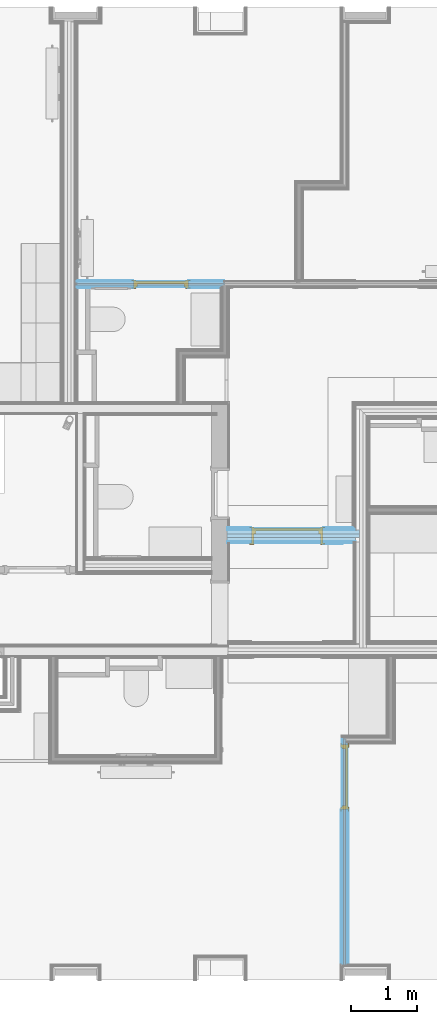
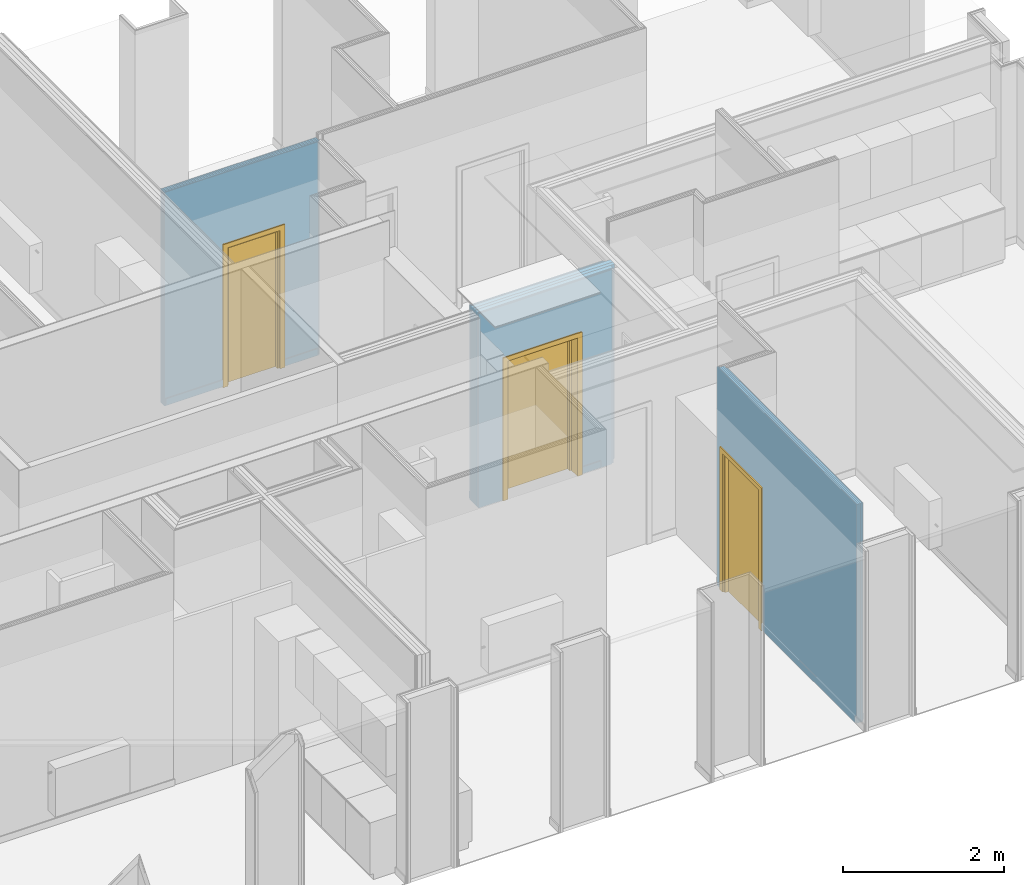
# One storey, part 53 of 65: 3 doors, 4 openings, 3 elements without a shape of their own, plus 23 elements that do not belong to this part.
"""IFC2X3 building model written with IfcOpenShell, lengths in metres."""

from ifc_helpers import new_model, entity, si_unit, converted_unit, derived_unit, money_unit, direction, frame, frame_2d, origin_with_axes, place, context, subcontext, project, spatial, polyline, rectangle, outline, extrude, faceted_brep, material, type_object, element, fill, aggregate, save


model = new_model("IFC2X3")

# Units and contexts
model_context = context("Model", 3, precision=1e-05, world=origin_with_axes(), true_north=direction((0.0, 1.0)))
body_context = subcontext(model_context, "Body", "Model", "MODEL_VIEW", scale=1.0)
ifc_project = project(units=[si_unit("LENGTHUNIT", "METRE"), si_unit("AREAUNIT", "SQUARE_METRE"), si_unit("VOLUMEUNIT", "CUBIC_METRE"), si_unit("ABSORBEDDOSEUNIT", "GRAY"), si_unit("AMOUNTOFSUBSTANCEUNIT", "MOLE"), si_unit("DOSEEQUIVALENTUNIT", "SIEVERT"), si_unit("ELECTRICCAPACITANCEUNIT", "FARAD"), si_unit("ELECTRICCHARGEUNIT", "COULOMB"), si_unit("ELECTRICCONDUCTANCEUNIT", "SIEMENS"), si_unit("ELECTRICCURRENTUNIT", "AMPERE"), si_unit("ELECTRICRESISTANCEUNIT", "OHM"), si_unit("ELECTRICVOLTAGEUNIT", "VOLT"), si_unit("ENERGYUNIT", "JOULE"), si_unit("FORCEUNIT", "NEWTON"), si_unit("FREQUENCYUNIT", "HERTZ"), si_unit("ILLUMINANCEUNIT", "LUX"), si_unit("INDUCTANCEUNIT", "HENRY"), si_unit("LUMINOUSFLUXUNIT", "LUMEN"), si_unit("LUMINOUSINTENSITYUNIT", "CANDELA"), si_unit("MAGNETICFLUXDENSITYUNIT", "TESLA"), si_unit("MAGNETICFLUXUNIT", "WEBER"), si_unit("MASSUNIT", "GRAM"), converted_unit("PLANEANGLEUNIT", "degree", entity("IfcReal", 0.0174532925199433), si_unit("PLANEANGLEUNIT", "RADIAN"), dimensions=[0, 0, 0, 0, 0, 0, 0]), si_unit("POWERUNIT", "WATT"), si_unit("PRESSUREUNIT", "PASCAL"), si_unit("RADIOACTIVITYUNIT", "BECQUEREL"), si_unit("SOLIDANGLEUNIT", "STERADIAN"), si_unit("THERMODYNAMICTEMPERATUREUNIT", "KELVIN"), si_unit("TIMEUNIT", "SECOND"), derived_unit("ACCELERATIONUNIT", [(si_unit("LENGTHUNIT", "METRE"), 1), (si_unit("TIMEUNIT", "SECOND"), -2)]), derived_unit("ANGULARVELOCITYUNIT", [(converted_unit("PLANEANGLEUNIT", "degree", entity("IfcReal", 0.0174532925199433), si_unit("PLANEANGLEUNIT", "RADIAN"), dimensions=[0, 0, 0, 0, 0, 0, 0]), 1), (si_unit("TIMEUNIT", "SECOND"), -1)]), derived_unit("CURVATUREUNIT", [(converted_unit("PLANEANGLEUNIT", "degree", entity("IfcReal", 0.0174532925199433), si_unit("PLANEANGLEUNIT", "RADIAN"), dimensions=[0, 0, 0, 0, 0, 0, 0]), 1), (si_unit("LENGTHUNIT", "METRE"), -1)]), derived_unit("DYNAMICVISCOSITYUNIT", [(si_unit("PRESSUREUNIT", "PASCAL"), 1), (si_unit("TIMEUNIT", "SECOND"), 1)]), derived_unit("HEATFLUXDENSITYUNIT", [(si_unit("POWERUNIT", "WATT"), 1), (si_unit("LENGTHUNIT", "METRE"), -2)]), derived_unit("HEATINGVALUEUNIT", [(si_unit("ENERGYUNIT", "JOULE"), 1), (si_unit("MASSUNIT", "GRAM"), -1)]), derived_unit("INTEGERCOUNTRATEUNIT", [(si_unit("TIMEUNIT", "SECOND"), -1)]), derived_unit("IONCONCENTRATIONUNIT", [(si_unit("MASSUNIT", "GRAM"), 1), (si_unit("VOLUMEUNIT", "CUBIC_METRE"), -1)]), derived_unit("ISOTHERMALMOISTURECAPACITYUNIT", [(si_unit("VOLUMEUNIT", "CUBIC_METRE"), 1), (si_unit("MASSUNIT", "GRAM"), -1)]), derived_unit("KINEMATICVISCOSITYUNIT", [(si_unit("AREAUNIT", "SQUARE_METRE"), 1), (si_unit("TIMEUNIT", "SECOND"), -1)]), derived_unit("LINEARFORCEUNIT", [(si_unit("FORCEUNIT", "NEWTON"), 1), (si_unit("LENGTHUNIT", "METRE"), -1)]), derived_unit("LINEARMOMENTUNIT", [(si_unit("FORCEUNIT", "NEWTON"), 1), (si_unit("LENGTHUNIT", "METRE"), -1)]), derived_unit("LINEARSTIFFNESSUNIT", [(si_unit("FORCEUNIT", "NEWTON"), 1), (si_unit("LENGTHUNIT", "METRE"), -1)]), derived_unit("LINEARVELOCITYUNIT", [(si_unit("LENGTHUNIT", "METRE"), 1), (si_unit("TIMEUNIT", "SECOND"), -1)]), derived_unit("LUMINOUSINTENSITYDISTRIBUTIONUNIT", [(si_unit("LUMINOUSINTENSITYUNIT", "CANDELA"), 1), (si_unit("LUMINOUSFLUXUNIT", "LUMEN"), -1)]), derived_unit("MASSDENSITYUNIT", [(si_unit("MASSUNIT", "GRAM"), 1), (si_unit("VOLUMEUNIT", "CUBIC_METRE"), -1)]), derived_unit("MASSFLOWRATEUNIT", [(si_unit("MASSUNIT", "GRAM"), 1), (si_unit("TIMEUNIT", "SECOND"), -1)]), derived_unit("MASSPERLENGTHUNIT", [(si_unit("MASSUNIT", "GRAM"), 1), (si_unit("LENGTHUNIT", "METRE"), -1)]), derived_unit("MODULUSOFELASTICITYUNIT", [(si_unit("FORCEUNIT", "NEWTON"), 1), (si_unit("AREAUNIT", "SQUARE_METRE"), -1)]), derived_unit("MODULUSOFLINEARSUBGRADEREACTIONUNIT", [(si_unit("FORCEUNIT", "NEWTON"), 1), (si_unit("LENGTHUNIT", "METRE"), -2)]), derived_unit("MODULUSOFROTATIONALSUBGRADEREACTIONUNIT", [(si_unit("FORCEUNIT", "NEWTON"), 1), (si_unit("LENGTHUNIT", "METRE"), 1)]), derived_unit("MODULUSOFSUBGRADEREACTIONUNIT", [(si_unit("FORCEUNIT", "NEWTON"), 1), (si_unit("VOLUMEUNIT", "CUBIC_METRE"), -1)]), derived_unit("MOISTUREDIFFUSIVITYUNIT", [(si_unit("VOLUMEUNIT", "CUBIC_METRE"), 1), (si_unit("TIMEUNIT", "SECOND"), -1)]), derived_unit("MOLECULARWEIGHTUNIT", [(si_unit("MASSUNIT", "GRAM"), 1), (si_unit("AMOUNTOFSUBSTANCEUNIT", "MOLE"), -1)]), derived_unit("PLANARFORCEUNIT", [(si_unit("FORCEUNIT", "NEWTON"), 1), (si_unit("LENGTHUNIT", "METRE"), -2)]), derived_unit("ROTATIONALFREQUENCYUNIT", [(si_unit("TIMEUNIT", "SECOND"), -1)]), derived_unit("ROTATIONALMASSUNIT", [(si_unit("MASSUNIT", "GRAM"), 1), (si_unit("LENGTHUNIT", "METRE"), 2)]), derived_unit("ROTATIONALSTIFFNESSUNIT", [(si_unit("FORCEUNIT", "NEWTON"), 1), (si_unit("LENGTHUNIT", "METRE"), 1), (converted_unit("PLANEANGLEUNIT", "degree", entity("IfcReal", 0.0174532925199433), si_unit("PLANEANGLEUNIT", "RADIAN"), dimensions=[0, 0, 0, 0, 0, 0, 0]), -1)]), derived_unit("SECTIONAREAINTEGRALUNIT", [(si_unit("LENGTHUNIT", "METRE"), 5)]), derived_unit("SECTIONMODULUSUNIT", [(si_unit("LENGTHUNIT", "METRE"), 3)]), derived_unit("SHEARMODULUSUNIT", [(si_unit("FORCEUNIT", "NEWTON"), 1), (si_unit("AREAUNIT", "SQUARE_METRE"), -1)]), derived_unit("SOUNDPOWERUNIT", [(si_unit("ENERGYUNIT", "JOULE"), 1), (si_unit("TIMEUNIT", "SECOND"), -1)]), derived_unit("SPECIFICHEATCAPACITYUNIT", [(si_unit("FORCEUNIT", "NEWTON"), 1), (si_unit("MASSUNIT", "GRAM"), -1), (si_unit("THERMODYNAMICTEMPERATUREUNIT", "KELVIN"), -1)]), derived_unit("TEMPERATUREGRADIENTUNIT", [(si_unit("THERMODYNAMICTEMPERATUREUNIT", "KELVIN"), 1), (si_unit("LENGTHUNIT", "METRE"), -1)]), derived_unit("THERMALADMITTANCEUNIT", [(si_unit("POWERUNIT", "WATT"), 1), (si_unit("AREAUNIT", "SQUARE_METRE"), -1), (si_unit("THERMODYNAMICTEMPERATUREUNIT", "KELVIN"), -1)]), derived_unit("THERMALCONDUCTANCEUNIT", [(si_unit("POWERUNIT", "WATT"), 1), (si_unit("LENGTHUNIT", "METRE"), -1), (si_unit("THERMODYNAMICTEMPERATUREUNIT", "KELVIN"), -1)]), derived_unit("THERMALEXPANSIONCOEFFICIENTUNIT", [(si_unit("THERMODYNAMICTEMPERATUREUNIT", "KELVIN"), -1)]), derived_unit("THERMALRESISTANCEUNIT", [(si_unit("AREAUNIT", "SQUARE_METRE"), 1), (si_unit("POWERUNIT", "WATT"), -1)]), derived_unit("THERMALTRANSMITTANCEUNIT", [(si_unit("POWERUNIT", "WATT"), 1), (si_unit("AREAUNIT", "SQUARE_METRE"), -1), (si_unit("THERMODYNAMICTEMPERATUREUNIT", "KELVIN"), -1)]), derived_unit("TORQUEUNIT", [(si_unit("FORCEUNIT", "NEWTON"), 1), (si_unit("LENGTHUNIT", "METRE"), 1)]), derived_unit("VAPORPERMEABILITYUNIT", [(si_unit("MASSUNIT", "GRAM"), 1), (si_unit("TIMEUNIT", "SECOND"), -1)]), derived_unit("VOLUMETRICFLOWRATEUNIT", [(si_unit("VOLUMEUNIT", "CUBIC_METRE"), 1), (si_unit("TIMEUNIT", "SECOND"), -1)]), derived_unit("WARPINGCONSTANTUNIT", [(si_unit("LENGTHUNIT", "METRE"), 6)]), derived_unit("WARPINGMOMENTUNIT", [(si_unit("FORCEUNIT", "NEWTON"), 1), (si_unit("LENGTHUNIT", "METRE"), 2)]), money_unit("GBP")], contexts=[model_context])

# Site, building, storey, space
site_placement = place(None, origin_with_axes())
site = spatial("IfcSite", under=ifc_project, at=site_placement, Name="Site", CompositionType="ELEMENT")
building_placement = place(site_placement, origin_with_axes())
building = spatial("IfcBuilding", under=site, at=building_placement, Name="Building01", CompositionType="ELEMENT")
storey_placement = place(building_placement, frame((0.0, 0.0, 8.64), z_axis=(0.0, 0.0, 1.0), x_axis=(1.0, 0.0, 0.0)))
storey = spatial("IfcBuildingStorey", under=building, at=storey_placement, Name="2F", CompositionType="ELEMENT", Elevation=8.64)
space_1_placement = place(storey_placement, frame((15.83, 8.82, 0.017975), z_axis=(0.0, 0.0, 1.0), x_axis=(0.0, -1.0, 0.0)))
space_1 = spatial("IfcSpace", under=storey, at=space_1_placement, Name="09", CompositionType="ELEMENT", InteriorOrExteriorSpace="NOTDEFINED")

# Door
ifc_material_1 = material(Name="A_BSUK_Doors")
door_style_1 = type_object("IfcDoorStyle", Name="A-Doors-SingleFlush", ConstructionType="USERDEFINED", OperationType="SINGLE_SWING_RIGHT", ParameterTakesPrecedence=False, Sizeable=False)
wall_3_placement = place(storey_placement, frame((17.985, 6.793, 0.0), z_axis=(0.0, 0.0, 1.0), x_axis=(1.0, 0.0, 0.0)))
opening_4_placement = place(wall_3_placement, frame((0.368, -0.103, -0.03), z_axis=(0.0, 0.0, 1.0), x_axis=(1.0, 0.0, 0.0)))
door_1_placement = place(opening_4_placement, frame((0.039, 0.24, 0.03), z_axis=(0.0, 0.0, 1.0), x_axis=(1.0, 0.0, 0.0)))
door_1 = element("IfcDoor", 1, at=door_1_placement, inside=space_1, type_object=door_style_1, material=ifc_material_1, Name="2.09", ObjectType="A-Doors-SingleFlush", OverallHeight=2.172, OverallWidth=1.08700000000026, context=body_context, shape_type="Brep", body=[
    faceted_brep([(1.0, -0.244, 0.0), (1.069, -0.244, 0.0), (1.069, -0.244, 2.169), (-0.069, -0.244, 2.169), (-0.069, -0.244, 0.0), (0.0, -0.244, 0.0), (0.0, -0.244, 2.1), (1.0, -0.244, 2.1), (-0.069, -0.225, 0.0), (-0.069, -0.225, 2.169), (1.069, -0.225, 2.169), (1.069, -0.225, 0.0), (1.0, 0.019, 0.0), (1.069, 0.019, 0.0), (1.069, 0.0, 0.0), (1.042, 0.0, 0.0), (1.042, -0.225, 0.0), (1.0, 0.019, 2.1), (0.0, 0.019, 2.1), (0.0, 0.019, 0.0), (-0.069, 0.019, 0.0), (-0.069, 0.019, 2.169), (1.069, 0.019, 2.169), (1.069, 0.0, 2.169), (1.042, -0.225, 2.142), (1.042, 0.0, 2.142), (-0.042, -0.225, 2.142), (-0.042, 0.0, 2.142), (-0.042, -0.225, 0.0), (-0.042, 0.0, 0.0), (-0.069, 0.0, 2.169), (-0.069, 0.0, 0.0)], [[[0, 1, 2, 3, 4, 5, 6, 7]], [[8, 4, 3, 9]], [[10, 2, 1, 11]], [[9, 3, 2, 10]], [[12, 13, 14, 15, 16, 11, 1, 0]], [[7, 17, 12, 0]], [[6, 18, 17, 7]], [[18, 19, 20, 21, 22, 13, 12, 17]], [[5, 19, 18, 6]], [[13, 22, 23, 14]], [[24, 16, 15, 25]], [[26, 24, 25, 27]], [[11, 16, 24, 26, 28, 8, 9, 10]], [[27, 29, 28, 26]], [[25, 15, 14, 23, 30, 31, 29, 27]], [[5, 4, 8, 28, 29, 31, 20, 19]], [[30, 21, 20, 31]], [[23, 22, 21, 30]]]),
    faceted_brep([(0.0, -0.09, 2.1), (0.0, -0.04, 2.1), (0.0, -0.04, 0.0), (0.0, -0.09, 0.0), (0.975, -0.09, 0.0), (1.0, -0.09, 0.0), (1.0, -0.09, 2.1), (0.025, -0.09, 0.0), (0.025, -0.09, 2.075), (0.975, -0.09, 2.075), (0.975, -0.04, 0.0), (1.0, -0.04, 0.0), (1.0, -0.04, 2.1), (0.025, -0.04, 2.075), (0.025, -0.04, 0.0), (0.975, -0.04, 2.075)], [[[0, 1, 2, 3]], [[4, 5, 6, 0, 3, 7, 8, 9]], [[10, 11, 5, 4]], [[6, 12, 1, 0]], [[5, 11, 12, 6]], [[13, 14, 2, 1, 12, 11, 10, 15]], [[7, 14, 13, 8]], [[7, 3, 2, 14]], [[9, 15, 10, 4]], [[8, 13, 15, 9]]]),
    faceted_brep([(1.0, -0.04, 0.0), (1.0, 0.0, 0.0), (1.0, 0.0, 2.1), (1.0, -0.04, 2.1), (0.0, -0.04, 2.1), (0.0, 0.0, 2.1), (0.0, 0.0, 0.0), (0.0, -0.04, 0.0)], [[[0, 1, 2, 3]], [[4, 5, 6, 7]], [[7, 6, 1, 0]], [[3, 4, 7, 0]], [[3, 2, 5, 4]], [[1, 6, 5, 2]]]),
])

# Space
space_2_placement = place(storey_placement, frame((14.85, 4.98, 0.017975), z_axis=(0.0, 0.0, 1.0), x_axis=(0.0, -1.0, 0.0)))
space_2 = spatial("IfcSpace", under=storey, at=space_2_placement, Name="11", CompositionType="ELEMENT", InteriorOrExteriorSpace="NOTDEFINED")

# Door
door_style_2 = type_object("IfcDoorStyle", Name="A-Doors-SingleFlush", ConstructionType="USERDEFINED", OperationType="SINGLE_SWING_LEFT", ParameterTakesPrecedence=False, Sizeable=False)
wall_1_placement = place(storey_placement, frame((19.75, 3.745, 0.0), z_axis=(0.0, 0.0, 1.0), x_axis=(0.0, -1.0, 0.0)))
opening_2_placement = place(wall_1_placement, frame((0.099, -0.05, 0.0), z_axis=(0.0, 0.0, 1.0), x_axis=(1.0, 0.0, 0.0)))
door_2_placement = place(opening_2_placement, frame((0.03, 0.11, 0.0), z_axis=(0.0, 0.0, 1.0), x_axis=(1.0, 0.0, 0.0)))
door_2 = element("IfcDoor", 2, at=door_2_placement, inside=space_2, type_object=door_style_2, material=ifc_material_1, Name="2.14", ObjectType="A-Doors-SingleFlush", OverallHeight=2.157, OverallWidth=1.56178056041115, context=body_context, shape_type="Brep", body=[
    faceted_brep([(0.0, -0.114, 2.1), (0.9, -0.114, 2.1), (0.9, -0.114, 0.0), (0.969, -0.114, 0.0), (0.969, -0.114, 2.169), (-0.069, -0.114, 2.169), (-0.069, -0.114, 0.0), (0.0, -0.114, 0.0), (0.969, -0.095, 2.169), (0.969, -0.095, 0.0), (-0.069, -0.095, 0.0), (-0.069, -0.095, 2.169), (-0.042, -0.095, 0.0), (-0.042, 0.0, 0.0), (-0.069, 0.0, 0.0), (-0.069, 0.019, 0.0), (0.0, 0.019, 0.0), (0.0, 0.019, 2.1), (0.9, 0.019, 2.1), (-0.069, 0.019, 2.169), (0.969, 0.019, 2.169), (0.969, 0.019, 0.0), (0.9, 0.019, 0.0), (-0.069, 0.0, 2.169), (-0.042, 0.0, 2.142), (-0.042, -0.095, 2.142), (0.942, 0.0, 2.142), (0.942, -0.095, 2.142), (0.942, -0.095, 0.0), (0.942, 0.0, 0.0), (0.969, 0.0, 0.0), (0.969, 0.0, 2.169)], [[[0, 1, 2, 3, 4, 5, 6, 7]], [[8, 4, 3, 9]], [[10, 6, 5, 11]], [[11, 5, 4, 8]], [[7, 6, 10, 12, 13, 14, 15, 16]], [[7, 16, 17, 0]], [[0, 17, 18, 1]], [[17, 16, 15, 19, 20, 21, 22, 18]], [[1, 18, 22, 2]], [[14, 23, 19, 15]], [[24, 13, 12, 25]], [[26, 24, 25, 27]], [[11, 8, 9, 28, 27, 25, 12, 10]], [[27, 28, 29, 26]], [[26, 29, 30, 31, 23, 14, 13, 24]], [[22, 21, 30, 29, 28, 9, 3, 2]], [[30, 21, 20, 31]], [[31, 20, 19, 23]]]),
    faceted_brep([(0.9, -0.09, 0.0), (0.9, -0.04, 0.0), (0.9, -0.04, 2.1), (0.9, -0.09, 2.1), (0.025, -0.09, 2.075), (0.875, -0.09, 2.075), (0.875, -0.09, 0.0), (0.0, -0.09, 2.1), (0.0, -0.09, 0.0), (0.025, -0.09, 0.0), (0.0, -0.04, 0.0), (0.025, -0.04, 0.0), (0.0, -0.04, 2.1), (0.025, -0.04, 2.075), (0.875, -0.04, 0.0), (0.875, -0.04, 2.075)], [[[0, 1, 2, 3]], [[4, 5, 6, 0, 3, 7, 8, 9]], [[9, 8, 10, 11]], [[3, 2, 12, 7]], [[7, 12, 10, 8]], [[13, 11, 10, 12, 2, 1, 14, 15]], [[5, 15, 14, 6]], [[14, 1, 0, 6]], [[9, 11, 13, 4]], [[4, 13, 15, 5]]]),
    faceted_brep([(0.0, -0.04, 2.1), (0.0, 0.0, 2.1), (0.0, 0.0, 0.0), (0.0, -0.04, 0.0), (0.9, -0.04, 0.0), (0.9, 0.0, 0.0), (0.9, 0.0, 2.1), (0.9, -0.04, 2.1)], [[[0, 1, 2, 3]], [[4, 5, 6, 7]], [[3, 2, 5, 4]], [[3, 4, 7, 0]], [[7, 6, 1, 0]], [[1, 6, 5, 2]]]),
])

wall_2_placement = place(storey_placement, frame((17.94, 10.63, 0.0), z_axis=(0.0, 0.0, 1.0), x_axis=(-1.0, 0.0, 0.0)))
opening_3_placement = place(wall_2_placement, frame((0.540552, -0.05, 0.0), z_axis=(0.0, 0.0, 1.0), x_axis=(1.0, 0.0, 0.0)))
door_3_placement = place(opening_3_placement, frame((0.792, 0.015, 0.0), z_axis=(0.0, 0.0, 1.0), x_axis=(-1.0, 0.0, 0.0)))
door_3 = element("IfcDoor", 3, at=door_3_placement, inside=space_1, type_object=door_style_2, material=ifc_material_1, Name="2.05", ObjectType="A-Doors-SingleFlush", OverallHeight=2.142, OverallWidth=0.834, context=body_context, shape_type="Brep", body=[
    faceted_brep([(0.0, -0.114, 2.1), (0.75, -0.114, 2.1), (0.75, -0.114, 0.0), (0.819, -0.114, 0.0), (0.819, -0.114, 2.169), (-0.069, -0.114, 2.169), (-0.069, -0.114, 0.0), (0.0, -0.114, 0.0), (0.819, -0.095, 2.169), (0.819, -0.095, 0.0), (-0.069, -0.095, 0.0), (-0.069, -0.095, 2.169), (-0.042, -0.095, 0.0), (-0.042, 0.0, 0.0), (-0.069, 0.0, 0.0), (-0.069, 0.019, 0.0), (0.0, 0.019, 0.0), (0.0, 0.019, 2.1), (0.75, 0.019, 2.1), (-0.069, 0.019, 2.169), (0.819, 0.019, 2.169), (0.819, 0.019, 0.0), (0.75, 0.019, 0.0), (-0.069, 0.0, 2.169), (-0.042, 0.0, 2.142), (-0.042, -0.095, 2.142), (0.792, 0.0, 2.142), (0.792, -0.095, 2.142), (0.792, -0.095, 0.0), (0.792, 0.0, 0.0), (0.819, 0.0, 0.0), (0.819, 0.0, 2.169)], [[[0, 1, 2, 3, 4, 5, 6, 7]], [[8, 4, 3, 9]], [[10, 6, 5, 11]], [[11, 5, 4, 8]], [[7, 6, 10, 12, 13, 14, 15, 16]], [[7, 16, 17, 0]], [[0, 17, 18, 1]], [[17, 16, 15, 19, 20, 21, 22, 18]], [[1, 18, 22, 2]], [[14, 23, 19, 15]], [[24, 13, 12, 25]], [[26, 24, 25, 27]], [[11, 8, 9, 28, 27, 25, 12, 10]], [[27, 28, 29, 26]], [[26, 29, 30, 31, 23, 14, 13, 24]], [[22, 21, 30, 29, 28, 9, 3, 2]], [[30, 21, 20, 31]], [[31, 20, 19, 23]]]),
    faceted_brep([(0.75, -0.09, 0.0), (0.75, -0.04, 0.0), (0.75, -0.04, 2.1), (0.75, -0.09, 2.1), (0.025, -0.09, 2.075), (0.725, -0.09, 2.075), (0.725, -0.09, 0.0), (0.0, -0.09, 2.1), (0.0, -0.09, 0.0), (0.025, -0.09, 0.0), (0.0, -0.04, 0.0), (0.025, -0.04, 0.0), (0.0, -0.04, 2.1), (0.025, -0.04, 2.075), (0.725, -0.04, 0.0), (0.725, -0.04, 2.075)], [[[0, 1, 2, 3]], [[4, 5, 6, 0, 3, 7, 8, 9]], [[9, 8, 10, 11]], [[3, 2, 12, 7]], [[7, 12, 10, 8]], [[13, 11, 10, 12, 2, 1, 14, 15]], [[5, 15, 14, 6]], [[14, 1, 0, 6]], [[9, 11, 13, 4]], [[4, 13, 15, 5]]]),
    faceted_brep([(0.0, -0.04, 2.1), (0.0, 0.0, 2.1), (0.0, 0.0, 0.0), (0.0, -0.04, 0.0), (0.75, -0.04, 0.0), (0.75, 0.0, 0.0), (0.75, 0.0, 2.1), (0.75, -0.04, 2.1)], [[[0, 1, 2, 3]], [[4, 5, 6, 7]], [[3, 2, 5, 4]], [[3, 4, 7, 0]], [[7, 6, 1, 0]], [[1, 6, 5, 2]]]),
])

# Wall, openings
wall_type_1 = type_object("IfcWallType", Name="SHE_A-Walls_Type05a_Partition_95mm_tall", PredefinedType="NOTDEFINED")
wall_1 = element("IfcWall", 4, at=wall_1_placement, inside=storey, type_object=wall_type_1, Name="5A", ObjectType="SHE_A-Walls_Type05a_Partition_95mm_tall")
opening_1_placement = place(wall_1_placement, frame((0.087, -0.035, 0.0), z_axis=(0.0, 0.0, 1.0), x_axis=(1.0, 0.0, 0.0)))
element("IfcOpeningElement", 5, at=opening_1_placement, cuts=wall_1, Name="Opening", ObjectType="Recess", context=body_context, shape_type="SweptSolid", body=[
    extrude(rectangle(XDim=2.142, YDim=0.984, at=frame_2d((-0.492, 1.071), x_axis=(0.0, 1.0))), frame((0.0, 0.0, 0.0), z_axis=(0.0, 1.0, 0.0), x_axis=(-1.0, 0.0, 0.0)), (0.0, 0.0, 1.0), 0.035),
])
opening_2 = element("IfcOpeningElement", 6, at=opening_2_placement, cuts=wall_1, Name="Opening", ObjectType="Opening", context=body_context, shape_type="SweptSolid", body=[
    extrude(rectangle(XDim=0.9, YDim=2.127, at=frame_2d((-0.45, 1.0635), x_axis=(-1.0, 0.0))), frame((0.0, 0.0, 0.0), z_axis=(0.0, 1.0, 0.0), x_axis=(-1.0, 0.0, 0.0)), (0.0, 0.0, 1.0), 0.125),
    extrude(rectangle(XDim=0.9, YDim=2.142, at=frame_2d((-0.45, 1.056), x_axis=(-1.0, 0.0))), frame((0.0, 0.015, 0.0), z_axis=(0.0, 1.0, 0.0), x_axis=(-1.0, 0.0, 0.0)), (0.0, 0.0, 1.0), 0.012),
    extrude(rectangle(XDim=2.142, YDim=0.984, at=frame_2d((-0.48, 1.071), x_axis=(0.0, -1.0))), frame((0.0, 0.0, 0.0), z_axis=(0.0, 1.0, 0.0), x_axis=(-1.0, 0.0, 0.0)), (0.0, 0.0, 1.0), 0.015),
    extrude(rectangle(XDim=0.9, YDim=2.142, at=frame_2d((-0.45, 1.056), x_axis=(-1.0, 0.0))), frame((0.0, 0.027, 0.0), z_axis=(0.0, 1.0, 0.0), x_axis=(-1.0, 0.0, 0.0)), (0.0, 0.0, 1.0), 0.023),
    extrude(outline(polyline([(0.012, 2.127), (0.012, 2.142), (-0.972, 2.142), (-0.972, 0.0), (-0.494219, 0.0), (-0.494219, -0.015), (0.589781, -0.015), (0.589781, 2.127), (0.012, 2.127)])), frame((0.0, 0.05, 0.0), z_axis=(0.0, 1.0, 0.0), x_axis=(-1.0, 0.0, 0.0)), (0.0, 0.0, 1.0), 0.025),
    extrude(outline(polyline([(0.012, 2.127), (0.012, 2.142), (-0.972, 2.142), (-0.972, 0.0), (-0.494219, 0.0), (-0.494219, -0.015), (0.589781, -0.015), (0.589781, 2.127), (0.012, 2.127)])), frame((0.0, 0.075, 0.0), z_axis=(0.0, 1.0, 0.0), x_axis=(-1.0, 0.0, 0.0)), (0.0, 0.0, 1.0), 0.023),
    extrude(outline(polyline([(-0.972, 2.142), (-0.972, 0.0), (-0.9, 0.0), (-0.9, -0.015), (0.0, -0.015), (0.0, 0.0), (0.589781, 0.0), (0.589781, 2.142), (-0.972, 2.142)])), frame((0.0, 0.098, 0.0), z_axis=(0.0, 1.0, 0.0), x_axis=(-1.0, 0.0, 0.0)), (0.0, 0.0, 1.0), 0.012),
    extrude(rectangle(XDim=2.142, YDim=0.984, at=frame_2d((-0.48, 1.071), x_axis=(0.0, -1.0))), frame((0.0, 0.11, 0.0), z_axis=(0.0, 1.0, 0.0), x_axis=(-1.0, 0.0, 0.0)), (0.0, 0.0, 1.0), 0.015),
])

fill(opening_2, door_2)

# Building element part
ifc_material_2 = material(Name="A_BSUK_Walls_Timber")
placement_1 = place(wall_1_placement, origin_with_axes())
building_element_part_1 = element("IfcBuildingElementPart", 7, at=placement_1, material=ifc_material_2, Name="1", context=body_context, shape_type="SweptSolid", body=[
    extrude(rectangle(XDim=2.344, YDim=0.015, at=frame_2d((2.24, -0.0425), x_axis=(-1.0, 0.0))), frame((0.0, 0.0, 0.015), z_axis=(0.0, 0.0, 1.0), x_axis=(1.0, 0.0, 0.0)), (0.0, 0.0, 1.0), 0.1),
])

ifc_material_3 = material(Name="A_BSUK_WallInternal_Finishes_Plasterboard")
building_element_part_2 = element("IfcBuildingElementPart", 8, at=placement_1, material=ifc_material_3, Name="2", context=body_context, shape_type="SweptSolid", body=[
    extrude(outline(polyline([(3.427, -0.023), (-0.023, -0.023), (-0.035, -0.035), (3.427, -0.035), (3.427, -0.023)])), origin_with_axes(), (0.0, 0.0, 1.0), 3.32),
])

ifc_material_4 = material(Name="Air Cavity")
building_element_part_3 = element("IfcBuildingElementPart", 9, at=placement_1, material=ifc_material_4, Name="3", context=body_context, shape_type="SweptSolid", body=[
    extrude(outline(polyline([(3.427, 0.0), (0.0, 0.0), (-0.023, -0.023), (3.427, -0.023), (3.427, 0.0)])), origin_with_axes(), (0.0, 0.0, 1.0), 3.32),
])

ifc_material_5 = material(Name="A_BSUK_Insulation")
building_element_part_4 = element("IfcBuildingElementPart", 10, at=placement_1, material=ifc_material_5, Name="4", context=body_context, shape_type="SweptSolid", body=[
    extrude(rectangle(XDim=3.427, YDim=0.025, at=frame_2d((1.7135, 0.0125), x_axis=(-1.0, 0.0))), origin_with_axes(), (0.0, 0.0, 1.0), 3.32),
])

building_element_part_5 = element("IfcBuildingElementPart", 11, at=placement_1, material=ifc_material_4, Name="5", context=body_context, shape_type="SweptSolid", body=[
    extrude(rectangle(XDim=3.427, YDim=0.023, at=frame_2d((1.7135, 0.0365), x_axis=(-1.0, 0.0))), origin_with_axes(), (0.0, 0.0, 1.0), 3.32),
])

building_element_part_6 = element("IfcBuildingElementPart", 12, at=placement_1, material=ifc_material_3, Name="6", context=body_context, shape_type="SweptSolid", body=[
    extrude(outline(polyline([(3.427, 0.06), (0.06, 0.06), (0.048, 0.048), (3.427, 0.048), (3.427, 0.06)])), origin_with_axes(), (0.0, 0.0, 1.0), 3.32),
])

building_element_part_7 = element("IfcBuildingElementPart", 13, at=placement_1, material=ifc_material_2, Name="7", context=body_context, shape_type="SweptSolid", body=[
    extrude(rectangle(XDim=2.344, YDim=0.015, at=frame_2d((2.24, 0.0675), x_axis=(-1.0, 0.0))), frame((0.0, 0.0, 0.015), z_axis=(0.0, 0.0, 1.0), x_axis=(1.0, 0.0, 0.0)), (0.0, 0.0, 1.0), 0.1),
])

aggregate(wall_1, [building_element_part_1, building_element_part_2, building_element_part_3, building_element_part_4, building_element_part_5, building_element_part_6, building_element_part_7])

# Wall, opening
wall_2 = element("IfcWall", 14, at=wall_2_placement, inside=storey, type_object=wall_type_1, Name="5A", ObjectType="SHE_A-Walls_Type05a_Partition_95mm_tall")
opening_3 = element("IfcOpeningElement", 15, at=opening_3_placement, cuts=wall_2, Name="Opening", ObjectType="Opening", context=body_context, shape_type="SweptSolid", body=[
    extrude(rectangle(XDim=0.834, YDim=2.142, at=frame_2d((-0.417, 1.071), x_axis=(-1.0, 0.0))), frame((0.0, 0.0, 0.0), z_axis=(0.0, 1.0, 0.0), x_axis=(-1.0, 0.0, 0.0)), (0.0, 0.0, 1.0), 0.125),
])

fill(opening_3, door_3)

# Building element part
placement_2 = place(wall_2_placement, origin_with_axes())
building_element_part_8 = element("IfcBuildingElementPart", 16, at=placement_2, material=ifc_material_2, Name="1", context=body_context, shape_type="SweptSolid", body=[
    extrude(rectangle(XDim=2.216868, YDim=0.015, at=frame_2d((1.108434, -0.0425), x_axis=(-1.0, 0.0))), frame((0.0, 0.0, 0.015), z_axis=(0.0, 0.0, 1.0), x_axis=(1.0, 0.0, 0.0)), (0.0, 0.0, 1.0), 0.1),
])

building_element_part_9 = element("IfcBuildingElementPart", 17, at=placement_2, material=ifc_material_3, Name="2", context=body_context, shape_type="SweptSolid", body=[
    extrude(rectangle(XDim=2.231868, YDim=0.012, at=frame_2d((1.115934, -0.029), x_axis=(-1.0, 0.0))), origin_with_axes(), (0.0, 0.0, 1.0), 3.24),
])

building_element_part_10 = element("IfcBuildingElementPart", 18, at=placement_2, material=ifc_material_4, Name="3", context=body_context, shape_type="SweptSolid", body=[
    extrude(rectangle(XDim=2.231868, YDim=0.023, at=frame_2d((1.115934, -0.0115), x_axis=(-1.0, 0.0))), origin_with_axes(), (0.0, 0.0, 1.0), 3.24),
])

building_element_part_11 = element("IfcBuildingElementPart", 19, at=placement_2, material=ifc_material_5, Name="4", context=body_context, shape_type="SweptSolid", body=[
    extrude(rectangle(XDim=2.231868, YDim=0.025, at=frame_2d((1.115934, 0.0125), x_axis=(-1.0, 0.0))), origin_with_axes(), (0.0, 0.0, 1.0), 3.24),
])

building_element_part_12 = element("IfcBuildingElementPart", 20, at=placement_2, material=ifc_material_4, Name="5", context=body_context, shape_type="SweptSolid", body=[
    extrude(rectangle(XDim=2.231868, YDim=0.023, at=frame_2d((1.115934, 0.0365), x_axis=(-1.0, 0.0))), origin_with_axes(), (0.0, 0.0, 1.0), 3.24),
])

building_element_part_13 = element("IfcBuildingElementPart", 21, at=placement_2, material=ifc_material_3, Name="6", context=body_context, shape_type="SweptSolid", body=[
    extrude(rectangle(XDim=2.208868, YDim=0.012, at=frame_2d((1.127434, 0.054), x_axis=(-1.0, 0.0))), origin_with_axes(), (0.0, 0.0, 1.0), 3.24),
])

building_element_part_14 = element("IfcBuildingElementPart", 22, at=placement_2, material=ifc_material_2, Name="7", context=body_context, shape_type="SweptSolid", body=[
    extrude(rectangle(XDim=2.181868, YDim=0.015, at=frame_2d((1.125934, 0.0675), x_axis=(-1.0, 0.0))), frame((0.0, 0.0, 0.015), z_axis=(0.0, 0.0, 1.0), x_axis=(1.0, 0.0, 0.0)), (0.0, 0.0, 1.0), 0.1),
])

aggregate(wall_2, [building_element_part_8, building_element_part_9, building_element_part_10, building_element_part_11, building_element_part_12, building_element_part_13, building_element_part_14])

# Wall, opening
wall_type_2 = type_object("IfcWallType", Name="SHE_A-Walls_Type01c_Partywall_225mm_twin_tall", PredefinedType="NOTDEFINED")
wall_3 = element("IfcWall", 23, at=wall_3_placement, inside=storey, type_object=wall_type_2, Name="1C", ObjectType="SHE_A-Walls_Type01c_Partywall_225mm_twin_tall")
opening_4 = element("IfcOpeningElement", 24, at=opening_4_placement, cuts=wall_3, Name="Opening", ObjectType="Opening", context=body_context, shape_type="SweptSolid", body=[
    extrude(rectangle(XDim=2.142, YDim=1.081, at=frame_2d((-0.5405, 1.071), x_axis=(0.0, -1.0))), frame((0.0, 0.0, 0.0), z_axis=(0.0, 1.0, 0.0), x_axis=(-1.0, 0.0, 0.0)), (0.0, 0.0, 1.0), 0.255),
    extrude(rectangle(XDim=1.084, YDim=2.172, at=frame_2d((-0.539, 1.086), x_axis=(1.0, 0.0))), frame((0.0, 0.015, 0.0), z_axis=(0.0, 1.0, 0.0), x_axis=(-1.0, 0.0, 0.0)), (0.0, 0.0, 1.0), 0.015),
    extrude(rectangle(XDim=2.142, YDim=1.084, at=frame_2d((-0.542, 1.071), x_axis=(0.0, -1.0))), frame((0.0, 0.0, 0.0), z_axis=(0.0, 1.0, 0.0), x_axis=(-1.0, 0.0, 0.0)), (0.0, 0.0, 1.0), 0.015),
    extrude(outline(polyline([(0.0, 0.03), (0.003, 0.03), (0.003, 2.172), (-1.081, 2.172), (-1.081, 2.142), (-1.084, 2.142), (-1.084, 0.0), (0.0, 0.0), (0.0, 0.03)])), frame((0.0, 0.03, 0.0), z_axis=(0.0, 1.0, 0.0), x_axis=(-1.0, 0.0, 0.0)), (0.0, 0.0, 1.0), 0.015),
    extrude(outline(polyline([(0.0, 0.03), (0.003, 0.03), (0.003, 2.172), (-1.081, 2.172), (-1.081, 2.142), (-1.084, 2.142), (-1.084, 0.0), (0.0, 0.0), (0.0, 0.03)])), frame((0.0, 0.045, 0.0), z_axis=(0.0, 1.0, 0.0), x_axis=(-1.0, 0.0, 0.0)), (0.0, 0.0, 1.0), 0.058),
    extrude(outline(polyline([(0.0, 0.03), (0.003, 0.03), (0.003, 2.172), (-1.081, 2.172), (-1.081, 2.142), (-1.084, 2.142), (-1.084, 0.0), (0.0, 0.0), (0.0, 0.03)])), frame((0.0, 0.103, 0.0), z_axis=(0.0, 1.0, 0.0), x_axis=(-1.0, 0.0, 0.0)), (0.0, 0.0, 1.0), 0.05),
    extrude(outline(polyline([(0.0, 0.03), (0.003, 0.03), (0.003, 2.172), (-1.081, 2.172), (-1.081, 2.142), (-1.084, 2.142), (-1.084, 0.0), (0.0, 0.0), (0.0, 0.03)])), frame((0.0, 0.153, 0.0), z_axis=(0.0, 1.0, 0.0), x_axis=(-1.0, 0.0, 0.0)), (0.0, 0.0, 1.0), 0.057),
    extrude(outline(polyline([(0.0, 0.03), (0.003, 0.03), (0.003, 2.172), (-1.081, 2.172), (-1.081, 2.142), (-1.084, 2.142), (-1.084, 0.0), (0.0, 0.0), (0.0, 0.03)])), frame((0.0, 0.21, 0.0), z_axis=(0.0, 1.0, 0.0), x_axis=(-1.0, 0.0, 0.0)), (0.0, 0.0, 1.0), 0.015),
    extrude(rectangle(XDim=1.084, YDim=2.172, at=frame_2d((-0.539, 1.086), x_axis=(1.0, 0.0))), frame((0.0, 0.225, 0.0), z_axis=(0.0, 1.0, 0.0), x_axis=(-1.0, 0.0, 0.0)), (0.0, 0.0, 1.0), 0.015),
    extrude(outline(polyline([(0.0, 0.03), (0.003, 0.03), (0.003, 2.172), (-1.081, 2.172), (-1.081, 2.142), (-1.084, 2.142), (-1.084, 0.0), (0.0, 0.0), (0.0, 0.03)])), frame((0.0, 0.24, 0.0), z_axis=(0.0, 1.0, 0.0), x_axis=(-1.0, 0.0, 0.0)), (0.0, 0.0, 1.0), 0.015),
])

fill(opening_4, door_1)

# Building element part
placement_3 = place(wall_3_placement, origin_with_axes())
building_element_part_15 = element("IfcBuildingElementPart", 25, at=placement_3, material=ifc_material_2, Name="1", context=body_context, shape_type="SweptSolid", body=[
    extrude(rectangle(XDim=0.401969, YDim=0.015, at=frame_2d((1.544984, -0.0955), x_axis=(-1.0, 0.0))), frame((0.0, 0.0, 0.015), z_axis=(0.0, 0.0, 1.0), x_axis=(1.0, 0.0, 0.0)), (0.0, 0.0, 1.0), 0.1),
])

building_element_part_16 = element("IfcBuildingElementPart", 26, at=placement_3, material=ifc_material_3, Name="2", context=body_context, shape_type="SweptSolid", body=[
    extrude(rectangle(XDim=1.912661, YDim=0.015, at=frame_2d((0.956331, -0.0805), x_axis=(-1.0, 0.0))), origin_with_axes(), (0.0, 0.0, 1.0), 2.95),
])

building_element_part_17 = element("IfcBuildingElementPart", 27, at=placement_3, material=ifc_material_3, Name="3", context=body_context, shape_type="SweptSolid", body=[
    extrude(rectangle(XDim=1.942661, YDim=0.015, at=frame_2d((0.971331, -0.0655), x_axis=(-1.0, 0.0))), origin_with_axes(), (0.0, 0.0, 1.0), 2.95),
])

building_element_part_18 = element("IfcBuildingElementPart", 28, at=placement_3, material=ifc_material_4, Name="4", context=body_context, shape_type="SweptSolid", body=[
    extrude(rectangle(XDim=1.942661, YDim=0.058, at=frame_2d((0.971331, -0.029), x_axis=(-1.0, 0.0))), origin_with_axes(), (0.0, 0.0, 1.0), 2.95),
])

building_element_part_19 = element("IfcBuildingElementPart", 29, at=placement_3, material=ifc_material_5, Name="5", context=body_context, shape_type="SweptSolid", body=[
    extrude(rectangle(XDim=2.000661, YDim=0.05, at=frame_2d((1.000331, 0.025), x_axis=(-1.0, 0.0))), origin_with_axes(), (0.0, 0.0, 1.0), 2.95),
])

building_element_part_20 = element("IfcBuildingElementPart", 30, at=placement_3, material=ifc_material_4, Name="6", context=body_context, shape_type="SweptSolid", body=[
    extrude(rectangle(XDim=2.000661, YDim=0.057, at=frame_2d((1.000331, 0.0785), x_axis=(-1.0, 0.0))), origin_with_axes(), (0.0, 0.0, 1.0), 2.95),
])

building_element_part_21 = element("IfcBuildingElementPart", 31, at=placement_3, material=ifc_material_3, Name="7", context=body_context, shape_type="SweptSolid", body=[
    extrude(rectangle(XDim=1.927661, YDim=0.015, at=frame_2d((0.963831, 0.1145), x_axis=(-1.0, 0.0))), origin_with_axes(), (0.0, 0.0, 1.0), 2.95),
])

building_element_part_22 = element("IfcBuildingElementPart", 32, at=placement_3, material=ifc_material_3, Name="8", context=body_context, shape_type="SweptSolid", body=[
    extrude(rectangle(XDim=1.912661, YDim=0.015, at=frame_2d((0.956331, 0.1295), x_axis=(-1.0, 0.0))), origin_with_axes(), (0.0, 0.0, 1.0), 2.95),
])

building_element_part_23 = element("IfcBuildingElementPart", 33, at=placement_3, material=ifc_material_2, Name="9", context=body_context, shape_type="SweptSolid", body=[
    extrude(rectangle(XDim=1.897661, YDim=0.015, at=frame_2d((0.948831, 0.1445), x_axis=(-1.0, 0.0))), frame((0.0, 0.0, 0.015), z_axis=(0.0, 0.0, 1.0), x_axis=(1.0, 0.0, 0.0)), (0.0, 0.0, 1.0), 0.1),
])

aggregate(wall_3, [building_element_part_15, building_element_part_16, building_element_part_17, building_element_part_18, building_element_part_19, building_element_part_20, building_element_part_21, building_element_part_22, building_element_part_23])

save(model, "model.ifc")
